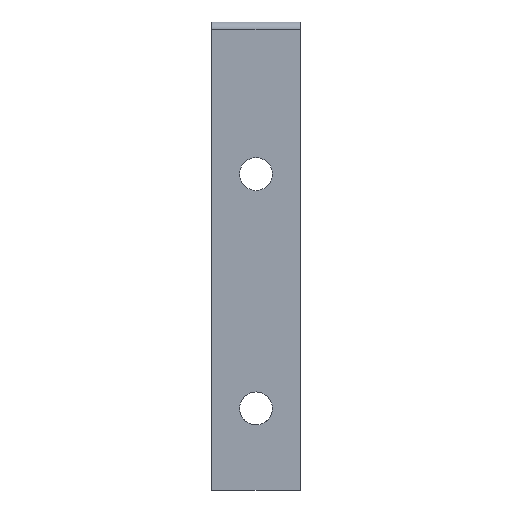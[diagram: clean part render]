
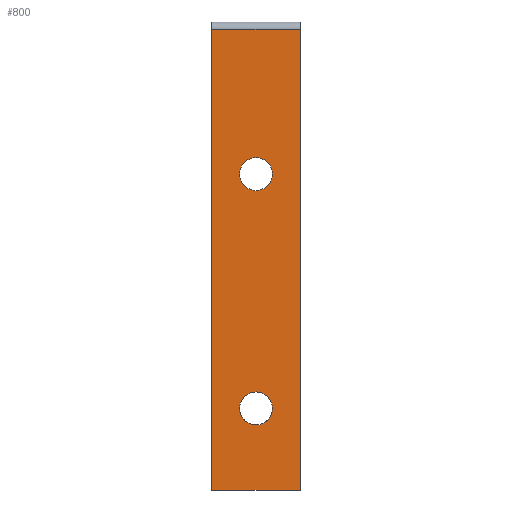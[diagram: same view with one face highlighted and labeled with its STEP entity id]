
A CAD part, front view. The second image highlights one B-rep face of the part: STEP entity #800.
In plain terms, the highlighted planar face has unit normal (0, -1, 0).
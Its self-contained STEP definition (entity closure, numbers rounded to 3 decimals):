
#71 = CARTESIAN_POINT ( 'NONE',  ( 0., 0.09, 12.75 ) ) ;
#88 = DIRECTION ( 'NONE',  ( 0., 0., -1. ) ) ;
#105 = CARTESIAN_POINT ( 'NONE',  ( 0., 0.09, -17. ) ) ;
#114 = DIRECTION ( 'NONE',  ( 0., 0., -1. ) ) ;
#127 = VERTEX_POINT ( 'NONE', #71 ) ;
#130 = ORIENTED_EDGE ( 'NONE', *, *, #205, .F. ) ;
#131 = DIRECTION ( 'NONE',  ( 0., -1., 0. ) ) ;
#132 = ORIENTED_EDGE ( 'NONE', *, *, #606, .T. ) ;
#134 = DIRECTION ( 'NONE',  ( 0., -1., 0. ) ) ;
#135 = AXIS2_PLACEMENT_3D ( 'NONE', #1367, #275, #277 ) ;
#136 = CARTESIAN_POINT ( 'NONE',  ( 0., 0.09, 15. ) ) ;
#137 = AXIS2_PLACEMENT_3D ( 'NONE', #211, #213, #220 ) ;
#181 = EDGE_CURVE ( 'NONE', #1385, #1223, #929, .T. ) ;
#205 = EDGE_CURVE ( 'NONE', #1103, #127, #924, .T. ) ;
#211 = CARTESIAN_POINT ( 'NONE',  ( 0., 0.09, -17. ) ) ;
#213 = DIRECTION ( 'NONE',  ( 0., -1., 0. ) ) ;
#220 = DIRECTION ( 'NONE',  ( 0., 0., -1. ) ) ;
#224 = CARTESIAN_POINT ( 'NONE',  ( 6.05, 0.09, -28.136 ) ) ;
#233 = AXIS2_PLACEMENT_3D ( 'NONE', #105, #134, #88 ) ;
#240 = EDGE_CURVE ( 'NONE', #1268, #1587, #909, .T. ) ;
#254 = AXIS2_PLACEMENT_3D ( 'NONE', #136, #131, #114 ) ;
#274 = CARTESIAN_POINT ( 'NONE',  ( 0., 0.09, -14.75 ) ) ;
#275 = DIRECTION ( 'NONE',  ( 0., -1., 0. ) ) ;
#277 = DIRECTION ( 'NONE',  ( 0., 0., -1. ) ) ;
#285 = CARTESIAN_POINT ( 'NONE',  ( 3.431, 0.09, -28.136 ) ) ;
#287 = CARTESIAN_POINT ( 'NONE',  ( 6.05, 0.09, 34.773 ) ) ;
#290 = CARTESIAN_POINT ( 'NONE',  ( -6.05, 0.09, 34.773 ) ) ;
#318 = CARTESIAN_POINT ( 'NONE',  ( 0., 0.09, -19.25 ) ) ;
#324 = CARTESIAN_POINT ( 'NONE',  ( -6.05, 0.09, 0. ) ) ;
#408 = CARTESIAN_POINT ( 'NONE',  ( 6.05, 0.09, 21.173 ) ) ;
#444 = CARTESIAN_POINT ( 'NONE',  ( 0., 0.09, 17.25 ) ) ;
#489 = FACE_OUTER_BOUND ( 'NONE', #1496, .T. ) ;
#491 = FACE_BOUND ( 'NONE', #1547, .T. ) ;
#497 = FACE_BOUND ( 'NONE', #821, .T. ) ;
#547 = DIRECTION ( 'NONE',  ( 0., 0., -1. ) ) ;
#602 = EDGE_CURVE ( 'NONE', #1587, #950, #663, .T. ) ;
#606 = EDGE_CURVE ( 'NONE', #1268, #1311, #640, .T. ) ;
#609 = EDGE_CURVE ( 'NONE', #1311, #950, #651, .T. ) ;
#622 = EDGE_CURVE ( 'NONE', #127, #1103, #628, .T. ) ;
#625 = CIRCLE ( 'NONE', #233, 2.25 ) ;
#626 = VECTOR ( 'NONE', #795, 1000. ) ;
#628 = CIRCLE ( 'NONE', #254, 2.25 ) ;
#631 = VECTOR ( 'NONE', #938, 1000. ) ;
#634 = EDGE_CURVE ( 'NONE', #1223, #1385, #625, .T. ) ;
#637 = VECTOR ( 'NONE', #1094, 1000. ) ;
#640 = LINE ( 'NONE', #1532, #631 ) ;
#651 = LINE ( 'NONE', #324, #626 ) ;
#663 = LINE ( 'NONE', #285, #637 ) ;
#795 = DIRECTION ( 'NONE',  ( 0., 0., -1. ) ) ;
#800 = ADVANCED_FACE ( 'NONE', ( #489, #491, #497 ), #1324, .T. ) ;
#816 = CARTESIAN_POINT ( 'NONE',  ( -6.05, 0.09, -28.136 ) ) ;
#821 = EDGE_LOOP ( 'NONE', ( #1079, #1046 ) ) ;
#888 = VECTOR ( 'NONE', #547, 1000. ) ;
#909 = LINE ( 'NONE', #408, #888 ) ;
#924 = CIRCLE ( 'NONE', #135, 2.25 ) ;
#929 = CIRCLE ( 'NONE', #137, 2.25 ) ;
#938 = DIRECTION ( 'NONE',  ( -1., 0., 0. ) ) ;
#950 = VERTEX_POINT ( 'NONE', #816 ) ;
#1018 = DIRECTION ( 'NONE',  ( 0., 0., -1. ) ) ;
#1046 = ORIENTED_EDGE ( 'NONE', *, *, #181, .F. ) ;
#1050 = ORIENTED_EDGE ( 'NONE', *, *, #240, .F. ) ;
#1051 = ORIENTED_EDGE ( 'NONE', *, *, #602, .F. ) ;
#1054 = ORIENTED_EDGE ( 'NONE', *, *, #609, .T. ) ;
#1063 = ORIENTED_EDGE ( 'NONE', *, *, #622, .F. ) ;
#1079 = ORIENTED_EDGE ( 'NONE', *, *, #634, .F. ) ;
#1094 = DIRECTION ( 'NONE',  ( -1., 0., 0. ) ) ;
#1103 = VERTEX_POINT ( 'NONE', #444 ) ;
#1105 = DIRECTION ( 'NONE',  ( 0., -1., 0. ) ) ;
#1108 = CARTESIAN_POINT ( 'NONE',  ( 3.431, 0.09, -27.115 ) ) ;
#1223 = VERTEX_POINT ( 'NONE', #318 ) ;
#1268 = VERTEX_POINT ( 'NONE', #287 ) ;
#1311 = VERTEX_POINT ( 'NONE', #290 ) ;
#1324 = PLANE ( 'NONE',  #1697 ) ;
#1367 = CARTESIAN_POINT ( 'NONE',  ( 0., 0.09, 15. ) ) ;
#1385 = VERTEX_POINT ( 'NONE', #274 ) ;
#1496 = EDGE_LOOP ( 'NONE', ( #1051, #1050, #132, #1054 ) ) ;
#1532 = CARTESIAN_POINT ( 'NONE',  ( 4.85, 0.09, 34.773 ) ) ;
#1547 = EDGE_LOOP ( 'NONE', ( #1063, #130 ) ) ;
#1587 = VERTEX_POINT ( 'NONE', #224 ) ;
#1697 = AXIS2_PLACEMENT_3D ( 'NONE', #1108, #1105, #1018 ) ;
